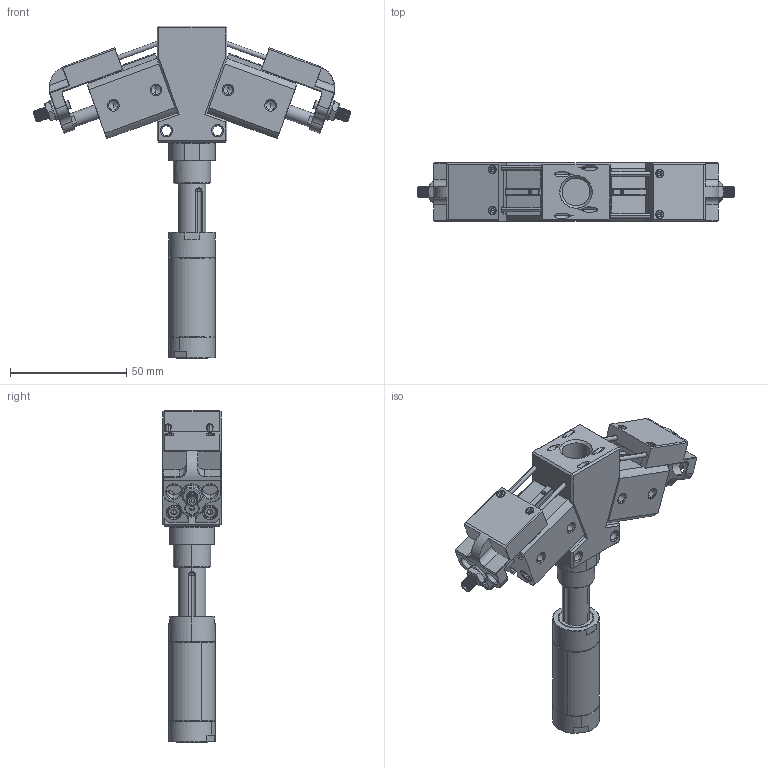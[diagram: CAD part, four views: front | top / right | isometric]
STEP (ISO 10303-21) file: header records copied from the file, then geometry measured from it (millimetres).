
FILE_DESCRIPTION (( 'STEP AP203' ), '1' );
FILE_NAME ('GN2010-S21 4.STEP', '2024-09-23T02:38:09', ( '' ), ( '' ), 'SwSTEP 2.0', 'SolidWorks 2022', '' );
FILE_SCHEMA (( 'CONFIG_CONTROL_DESIGN' ));
Length unit declared in the file: millimetre
Products named in the file (23): GN2010-S21 4.sldasm-Part-11; GN2010-S21 4.sldasm-Part-15; GN2010-S21 4.sldasm-Part-4; GN2010-S21 4.sldasm-Part-5; GN2010-S21 4.sldasm-Part-17; GN2010-S21 4.sldasm-Part-8; GN2010-S21 4.sldasm-Part-2; GN2010-S21 4.sldasm-Part-12; GN2010-S21 4.sldasm-Part-6; 2.Y01812; GN2010-S21 4.sldasm-Part-9; GN2010-S21 缓冲针夹金具主体; GN2010-S21 4.sldasm-Part-13; 不锈钢内六角平头螺丝; GN2010-S21 4.sldasm-Part-14; GN2010-S21 4.sldasm-Part-16; GN2010-S21 4.sldasm-Part-7; GN2010-S21 缓冲针夹轴杆; GN2010-S21 4.sldasm-Part-3; GN2010-S21 4; GN2010-S21 4.sldasm-Part-1; 针夹-轴杆档块; GN2010-S21 4.sldasm-Part-10
Assembly tree (22 placements, depth 2):
  GN2010-S21 4
    GN2010-S21 4.sldasm-Part-1
    GN2010-S21 4.sldasm-Part-2
    GN2010-S21 4.sldasm-Part-3
    GN2010-S21 4.sldasm-Part-4
    GN2010-S21 4.sldasm-Part-5
    GN2010-S21 4.sldasm-Part-6
    GN2010-S21 4.sldasm-Part-7
    GN2010-S21 4.sldasm-Part-8
    GN2010-S21 4.sldasm-Part-9
    GN2010-S21 4.sldasm-Part-10
    GN2010-S21 4.sldasm-Part-11
    GN2010-S21 4.sldasm-Part-12
    GN2010-S21 4.sldasm-Part-13
    GN2010-S21 4.sldasm-Part-14
    GN2010-S21 4.sldasm-Part-15
    GN2010-S21 4.sldasm-Part-16
    GN2010-S21 4.sldasm-Part-17
    不锈钢内六角平头螺丝
    针夹-轴杆档块
    GN2010-S21 缓冲针夹金具主体
    2.Y01812
    GN2010-S21 缓冲针夹轴杆
Bounding box: 136.67 x 25 x 142.7 mm (x, y, z)
Volume: 42093.8 mm3; surface area: 52162.1 mm2
Topology: 21 solids, 741 shells, 1843 faces, 5984 edges, 4888 vertices
Faces by surface type: plane 783, cylinder 505, cone 453, bspline 48, torus 42, sphere 12
Entity records: 95505 total; most frequent: CARTESIAN_POINT 48123, ORIENTED_EDGE 8397, DIRECTION 7120, EDGE_CURVE 5902, VERTEX_POINT 4886, B_SPLINE_CURVE_WITH_KNOTS 3492, AXIS2_PLACEMENT_3D 2889, EDGE_LOOP 2031
